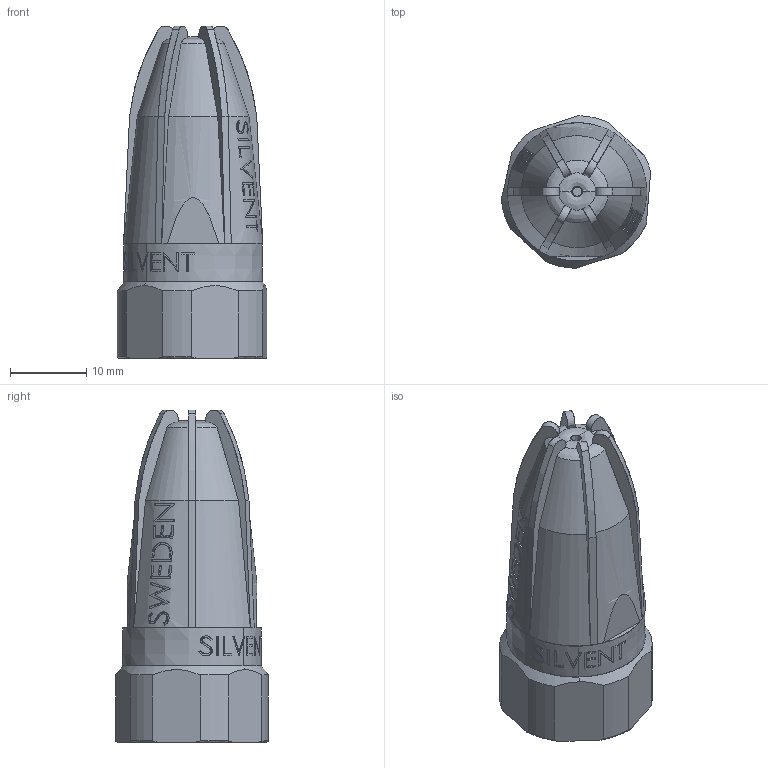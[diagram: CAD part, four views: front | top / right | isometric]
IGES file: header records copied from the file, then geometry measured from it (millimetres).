
Start section: SolidWorks IGES file using analytic representation for surfaces
Global section: file name: G:\Silvent\Ritningar\Övrigt\IGES\Silvent 208L-S.IGS; native system: SolidWorks 2006 by SolidWorks Corporation; preprocessor: SolidWorks 2006 by SolidWorks Corporation; author: silvpesv; date: 090421.132633; units: millimetre
Bounding box: 19.64 x 20.06 x 43.65 mm (x, y, z)
Surface area: 5008.8 mm2 (no closed solid volume)
Topology: 0 solids, 0 shells, 422 faces, 4656 edges, 4653 vertices
Faces by surface type: bspline 351, revolution 71
